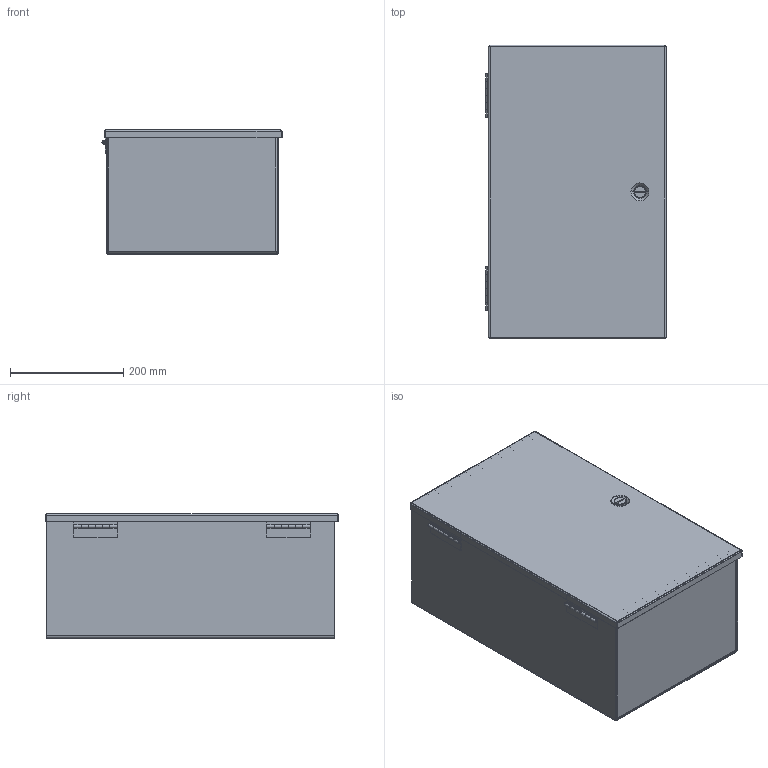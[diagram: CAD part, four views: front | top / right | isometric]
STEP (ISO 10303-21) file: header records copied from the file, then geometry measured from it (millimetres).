
FILE_DESCRIPTION (( 'STEP AP203' ), '1' );
FILE_NAME ('a20n12blp.STEP', '2010-02-04T16:18:04', ( 'Hoffman User' ), ( 'Hoffman Enclosures' ), 'SwSTEP 2.0', 'SolidWorks 2009', '' );
FILE_SCHEMA (( 'CONFIG_CONTROL_DESIGN' ));
Length unit declared in the file: inch
Products named in the file (12): A1M_Door_16Ga_20x12; assy_hinge_14102001; hinge_side_3in; Cam_43335002; insert_43335002; 2211202_stud collar .375-16x.5; a20n12blp; Panel_MedType1_14Ga_A20N12MP; A1M_WmtDoor_16Ga_20x12; A1M_WmtBody_16Ga_20x12x8.62; A1M_Body_16Ga_20x12x8.62; A1M_End_12x8.62
Assembly tree (17 placements, depth 4):
  a20n12blp
    A1M_WmtDoor_16Ga_20x12
      assy_hinge_14102001  x2
        hinge_side_3in
      A1M_Door_16Ga_20x12
      Cam_43335002
      insert_43335002
    A1M_WmtBody_16Ga_20x12x8.62
      A1M_End_12x8.62  x2
      2211202_stud collar .375-16x.5  x4
      A1M_Body_16Ga_20x12x8.62
    Panel_MedType1_14Ga_A20N12MP
Bounding box: 317.44 x 517.91 x 218.95 mm (x, y, z)
Volume: 1480967.8 mm3; surface area: 1707337.4 mm2
Topology: 15 solids, 15 shells, 491 faces, 1163 edges, 720 vertices
Faces by surface type: plane 255, cylinder 163, torus 32, cone 21, bspline 16, sphere 4
Entity records: 9981 total; most frequent: CARTESIAN_POINT 2197, DIRECTION 1355, ORIENTED_EDGE 1270, EDGE_CURVE 635, AXIS2_PLACEMENT_3D 472, LINE 411, VECTOR 411, VERTEX_POINT 386
